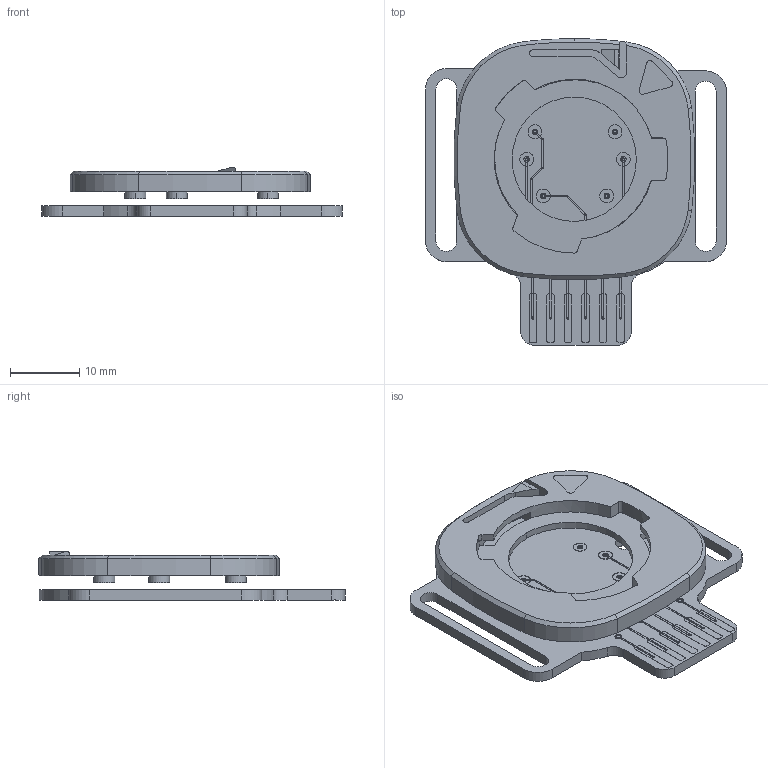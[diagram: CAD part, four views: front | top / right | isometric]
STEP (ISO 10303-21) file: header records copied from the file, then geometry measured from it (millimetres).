
FILE_DESCRIPTION (( 'STEP AP214' ), '1' );
FILE_NAME ('SW_SPE_adapter.STEP', '2024-12-09T14:57:16', ( '' ), ( '' ), 'SwSTEP 2.0', 'SolidWorks 2024', '' );
FILE_SCHEMA (( 'AUTOMOTIVE_DESIGN' ));
Length unit declared in the file: millimetre
Products named in the file (155): Via Hole-Part-1; Track (34.637mm,35.35mm)(36.133mm,36.846mm) on Bottom Layer; Top Layer; Pad CON1-6(38.25mm,19.55mm) on Top Layer-Part-1; Track (35.66mm,19.6mm)(35.71mm,19.55mm) on Top Layer; Pad Free-13(29.684mm,31.456mm) on Multi-Layer; Track (25.5mm,26.75mm)(29.337mm,26.75mm) on Bottom Layer-Part-1; Via Top Layer-Part-1-1; Track (28.074mm,26.686mm)(28.074mm,28.164mm) on Top Layer-1; Track (35.66mm,33.873mm)(38.637mm,36.85mm) on Top Layer-1; Track (27.037mm,37.25mm)(30.437mm,37.25mm) on Top Layer; Pad CON1-2(28.09mm,19.55mm) on Top Layer-1; Pad Free-12(23.682mm,50.49mm) on Multi-Layer; Track (26.887mm,41.3mm)(26.887mm,45.5mm) on Top Layer; Track (38.229mm,19.571mm)(38.229mm,26.941mm) on Top Layer; Track (35.66mm,33.873mm)(38.637mm,36.85mm) on Top Layer; Pad CON1-1(25.55mm,19.55mm) on Top Layer; Track (27.037mm,37.25mm)(30.437mm,37.25mm) on Top Layer-Part-1; Track (28.074mm,19.566mm)(28.074mm,26.686mm) on Top Layer; Via Top Layer-Part-1; Track (34.637mm,32.05mm)(34.637mm,35.35mm) on Bottom Layer-1; Track (25.837mm,46.55mm)(26.887mm,45.5mm) on Top Layer-Part-1; Track (33.12mm,19.6mm)(33.17mm,19.55mm) on Top Layer-1; Pad CON1-3(30.63mm,19.55mm) on Top Layer; Track (29.337mm,26.75mm)(34.637mm,32.05mm) on Bottom Layer-Part-1; Pad CON1-6(38.25mm,19.55mm) on Top Layer; Track (28.074mm,26.686mm)(28.074mm,28.164mm) on Top Layer; Track (30.594mm,19.586mm)(30.594mm,26.894mm) on Top Layer-1; Track (25.5mm,26.75mm)(29.337mm,26.75mm) on Bottom Layer; Pad CON1-4(33.17mm,19.55mm) on Top Layer; Track (25.5mm,19.6mm)(25.55mm,19.55mm) on Top Layer-Part-1; Track (25.287mm,32.2mm)(25.287mm,39.7mm) on Top Layer-1; Track (30.594mm,19.586mm)(30.63mm,19.55mm) on Top Layer-Part-1; SENSW-REV1 - mounting bracket with stubs_RGB4408131; Track (38.229mm,19.571mm)(38.25mm,19.55mm) on Top Layer; Track (25.287mm,39.7mm)(26.887mm,41.3mm) on Top Layer-Part-1; Track (24.65mm,31.587mm)(24.65mm,42.55mm) on Top Layer-Part-1; Track (38.637mm,36.85mm)(38.637mm,42.55mm) on Top Layer-Part-1; Track (25.5mm,19.6mm)(25.5mm,26.75mm) on Top Layer-Part-1; Via (38.237mm,26.95mm) from Top Layer to Bottom Layer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
Assembly tree (186 placements, depth 5):
  SW_SPE_adapter
    NoNet
      Pad Free-12(23.682mm,50.49mm) on Multi-Layer
        Pad Hole
          Pad Hole-Part-1
        Top Layer  x2
          Top Layer-Part-1
      Pad Free-13(29.684mm,31.456mm) on Multi-Layer
        Pad Hole
          Pad Hole-Part-1
        Top Layer  x2
          Top Layer-Part-1
      Pad Free-14(42.887mm,42.536mm) on Multi-Layer
        Pad Hole
          Pad Hole-Part-1
        Top Layer  x2
          Top Layer-Part-1
    AUX
      Track (35.66mm,19.6mm)(35.71mm,19.55mm) on Top Layer
        Track (35.66mm,19.6mm)(35.71mm,19.55mm) on Top Layer-1
          Track (35.66mm,19.6mm)(35.71mm,19.55mm) on Top Layer-Part-1
      Track (35.66mm,19.6mm)(35.66mm,33.873mm) on Top Layer
        Track (35.66mm,19.6mm)(35.66mm,33.873mm) on Top Layer-1
          Track (35.66mm,19.6mm)(35.66mm,33.873mm) on Top Layer-Part-1
      Track (35.66mm,33.873mm)(38.637mm,36.85mm) on Top Layer
        Track (35.66mm,33.873mm)(38.637mm,36.85mm) on Top Layer-1
          Track (35.66mm,33.873mm)(38.637mm,36.85mm) on Top Layer-Part-1
      Track (38.637mm,36.85mm)(38.637mm,42.55mm) on Top Layer
        Track (38.637mm,36.85mm)(38.637mm,42.55mm) on Top Layer-1
          Track (38.637mm,36.85mm)(38.637mm,42.55mm) on Top Layer-Part-1
      Via (38.637mm,42.55mm) from Top Layer to Bottom Layer
        Via Hole
          Via Hole-Part-1
        Via Top Layer  x2
          Via Top Layer-Part-1
      Pad CON1-5(35.71mm,19.55mm) on Top Layer
        Pad CON1-5(35.71mm,19.55mm) on Top Layer-1
          Pad CON1-5(35.71mm,19.55mm) on Top Layer-Part-1
      Pad TP1-1(38.637mm,42.55mm) on Top Layer
        TL
          TL-Part-1
    GND
      Polygon  (GND_L02_P003) on Bottom Layer
        Polygon Region (16 hole(s)) Bottom Layer
          Polygon Region (16 hole(s)) Bottom Layer-Part-1
      Track (38.229mm,19.571mm)(38.25mm,19.55mm) on Top Layer
        Track (38.229mm,19.571mm)(38.25mm,19.55mm) on Top Layer-1
          Track (38.229mm,19.571mm)(38.25mm,19.55mm) on Top Layer-Part-1
      Track (38.229mm,19.571mm)(38.229mm,26.941mm) on Top Layer
        Track (38.229mm,19.571mm)(38.229mm,26.941mm) on Top Layer-1
          Track (38.229mm,19.571mm)(38.229mm,26.941mm) on Top Layer-Part-1
      Via (38.237mm,26.95mm) from Top Layer to Bottom Layer
        Via Hole-1
          Via Hole-Part-1-1
        Via Top Layer-1  x2
          Via Top Layer-Part-1-1
      Via (37.437mm,46.55mm) from Top Layer to Bottom Layer
        Via Hole
          Via Hole-Part-1
        Via Top Layer  x2
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Bounding box: 43.56 x 44.41 x 7.04 mm (x, y, z)
Volume: 3674.3 mm3; surface area: 8389.7 mm2
Topology: 78 solids, 78 shells, 1034 faces, 2616 edges, 1741 vertices
Faces by surface type: plane 705, cylinder 320, cone 9
Entity records: 31007 total; most frequent: DIRECTION 4978, CARTESIAN_POINT 4931, ORIENTED_EDGE 4524, EDGE_CURVE 2262, LINE 1834, VECTOR 1834, AXIS2_PLACEMENT_3D 1572, VERTEX_POINT 1505
